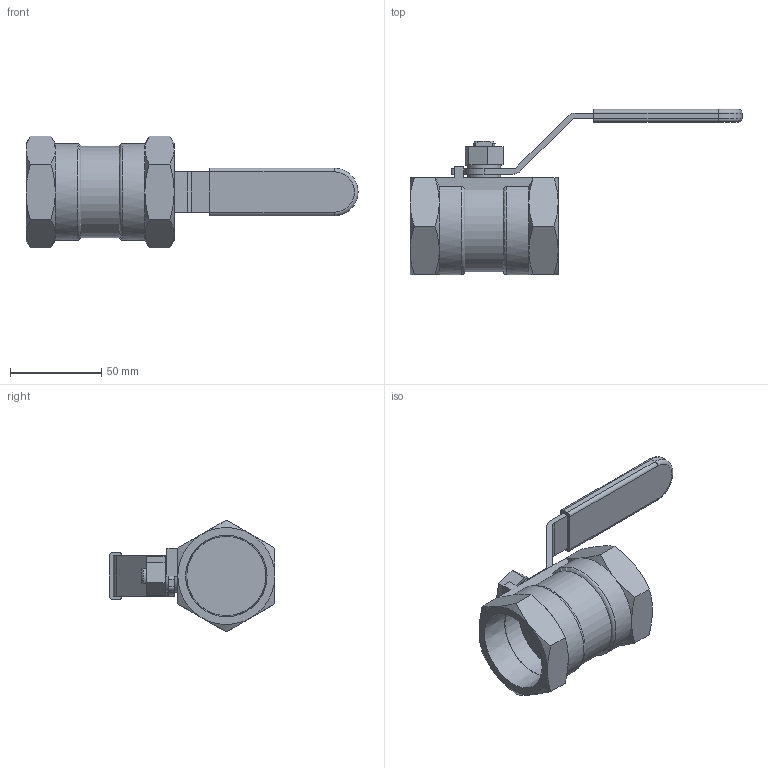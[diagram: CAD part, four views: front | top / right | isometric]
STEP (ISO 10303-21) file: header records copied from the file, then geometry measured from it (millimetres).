
FILE_DESCRIPTION(/* description */ ('Eriks item no: 12427447'),/* implementation_level */ '2;1');
FILE_NAME(/* name */ '7744-DN40-RB-1000PSI-NPT.stp',/* time_stamp */ '2024-02-16T13:16:34+01:00',/* author */ ('roger.thijssen'),/* organization */ (''),/* preprocessor_version */ 'ST-DEVELOPER v19.2',/* originating_system */ 'Autodesk Inventor 2024',/* authorisation */ '');
FILE_SCHEMA (('AUTOMOTIVE_DESIGN { 1 0 10303 214 3 1 1 }'));
Length unit declared in the file: millimetre
Products named in the file (1): Ball valve, 7744-DN40-RB-1000PSI-NPT
Bounding box: 181.5 x 90.5 x 61.2 mm (x, y, z)
Volume: 129220.5 mm3; surface area: 36571.2 mm2
Topology: 1 solids, 1 shells, 329 faces, 845 edges, 552 vertices
Faces by surface type: plane 236, cylinder 48, cone 28, bspline 13, torus 4
Full cylindrical faces by diameter (mm): 18 x2, 43.256 x2
Entity records: 10367 total; most frequent: CARTESIAN_POINT 2084, ORIENTED_EDGE 1690, DIRECTION 1523, EDGE_CURVE 845, LINE 637, VECTOR 637, VERTEX_POINT 552, AXIS2_PLACEMENT_3D 443
